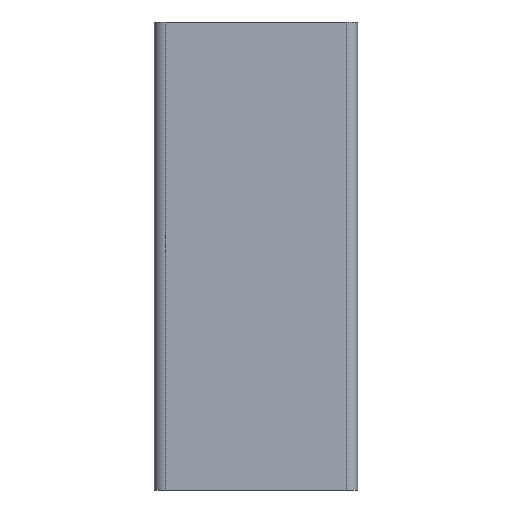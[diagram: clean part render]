
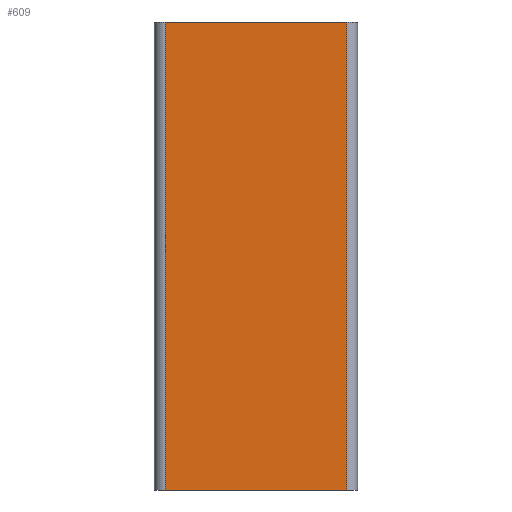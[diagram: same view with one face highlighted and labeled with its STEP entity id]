
A CAD part, left-side view. The second image highlights one B-rep face of the part: STEP entity #609.
In plain terms, the highlighted planar face has unit normal (-1, 0, 0).
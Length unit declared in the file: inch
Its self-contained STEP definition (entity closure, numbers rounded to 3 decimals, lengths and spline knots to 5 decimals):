
#4 = PLANE ( 'NONE',  #322 ) ;
#5 = CARTESIAN_POINT ( 'NONE',  ( -1.075, 1.9375, 5. ) ) ;
#42 = DIRECTION ( 'NONE',  ( 0., 0., -1. ) ) ;
#73 = CARTESIAN_POINT ( 'NONE',  ( -1.075, 1.9375, 5. ) ) ;
#81 = DIRECTION ( 'NONE',  ( 0., 0., -1. ) ) ;
#93 = DIRECTION ( 'NONE',  ( 0., -1., 0. ) ) ;
#124 = DIRECTION ( 'NONE',  ( 0., 0., -1. ) ) ;
#125 = DIRECTION ( 'NONE',  ( 1., 0., 0. ) ) ;
#129 = CARTESIAN_POINT ( 'NONE',  ( -1.075, 1.9375, 5. ) ) ;
#167 = CARTESIAN_POINT ( 'NONE',  ( -1.075, -1.9375, 5. ) ) ;
#186 = CARTESIAN_POINT ( 'NONE',  ( -1.075, 1.9375, 5. ) ) ;
#187 = VERTEX_POINT ( 'NONE', #227 ) ;
#191 = VERTEX_POINT ( 'NONE', #251 ) ;
#194 = CARTESIAN_POINT ( 'NONE',  ( -1.075, 1.9375, -5. ) ) ;
#209 = CARTESIAN_POINT ( 'NONE',  ( -1.075, 1.9375, -5. ) ) ;
#210 = DIRECTION ( 'NONE',  ( 0., -1., 0. ) ) ;
#227 = CARTESIAN_POINT ( 'NONE',  ( -1.075, -1.9375, -5. ) ) ;
#231 = VERTEX_POINT ( 'NONE', #209 ) ;
#251 = CARTESIAN_POINT ( 'NONE',  ( -1.075, -1.9375, 5. ) ) ;
#259 = VERTEX_POINT ( 'NONE', #186 ) ;
#271 = EDGE_CURVE ( 'NONE', #231, #187, #488, .T. ) ;
#285 = EDGE_CURVE ( 'NONE', #191, #187, #514, .T. ) ;
#302 = EDGE_CURVE ( 'NONE', #259, #231, #530, .T. ) ;
#322 = AXIS2_PLACEMENT_3D ( 'NONE', #129, #125, #124 ) ;
#332 = EDGE_CURVE ( 'NONE', #259, #191, #557, .T. ) ;
#424 = EDGE_LOOP ( 'NONE', ( #469, #466, #471, #465 ) ) ;
#465 = ORIENTED_EDGE ( 'NONE', *, *, #302, .T. ) ;
#466 = ORIENTED_EDGE ( 'NONE', *, *, #285, .F. ) ;
#469 = ORIENTED_EDGE ( 'NONE', *, *, #271, .T. ) ;
#471 = ORIENTED_EDGE ( 'NONE', *, *, #332, .F. ) ;
#488 = LINE ( 'NONE', #194, #489 ) ;
#489 = VECTOR ( 'NONE', #210, 39.37008 ) ;
#514 = LINE ( 'NONE', #167, #515 ) ;
#515 = VECTOR ( 'NONE', #81, 39.37008 ) ;
#530 = LINE ( 'NONE', #5, #543 ) ;
#543 = VECTOR ( 'NONE', #42, 39.37008 ) ;
#557 = LINE ( 'NONE', #73, #558 ) ;
#558 = VECTOR ( 'NONE', #93, 39.37008 ) ;
#571 = FACE_OUTER_BOUND ( 'NONE', #424, .T. ) ;
#609 = ADVANCED_FACE ( 'NONE', ( #571 ), #4, .F. ) ;
